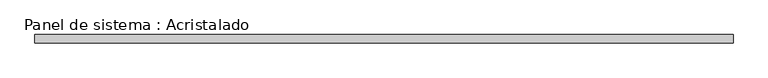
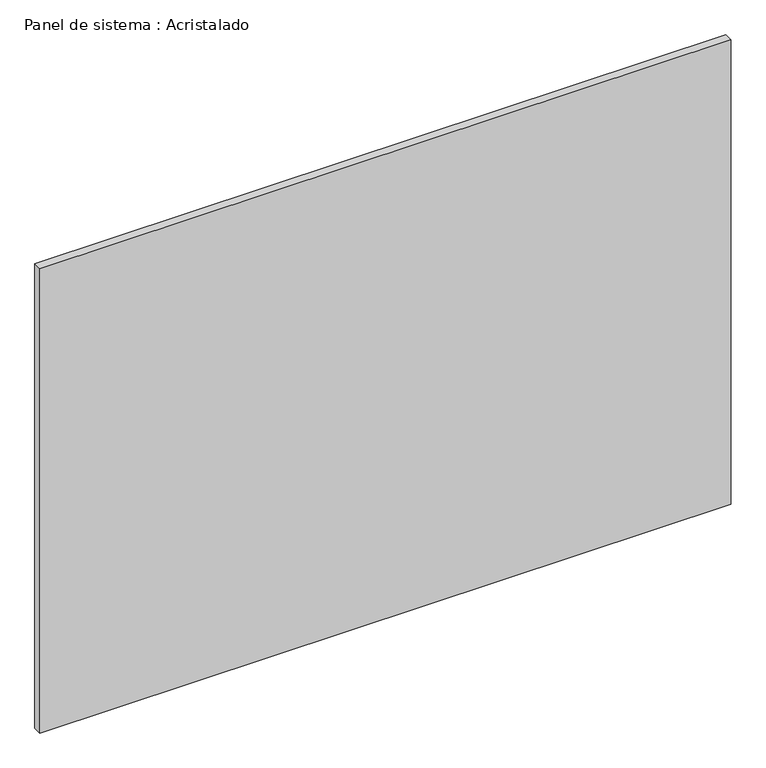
"""IFC4 building model written with IfcOpenShell, lengths in millimetres: plate geometry, Panel de sistema : Acristalado."""

import ifcopenshell
import ifcopenshell.guid

model = None  # the IFC model being written
_history = None  # IfcOwnerHistory: only IFC2X3 demands one
_inside = {}  # id of a spatial element -> (the spatial element, [elements in it])
_under = {}  # id of a project, library or spatial element -> (it, [spatial elements below it])
_declared = {}  # id of a project -> (the project, [libraries it declares])
_typed = {}  # id of a type object -> (the type object, [elements of that type])
_made_of = {}  # id of a material, layer set ... -> (it, [elements and type objects made of it])


def new_model(schema):
    """Start an empty IFC model of exactly this schema.

    Asked for "IFC4X3", IfcOpenShell would pick the latest addendum, in which some entities
    have other attributes; the version numbers below select the first issue.
    IFC2X3 requires an IfcOwnerHistory on every rooted entity: one is made here for all.
    """
    global model, _history
    if schema == "IFC4X3":
        model = ifcopenshell.file(schema_version=(4, 3, 0, 0))
    else:
        model = ifcopenshell.file(schema=schema)
    _inside.clear()
    _under.clear()
    _declared.clear()
    _typed.clear()
    _made_of.clear()
    _history = None
    if model.schema == "IFC2X3":
        org = make("IfcOrganization", Name="unknown")
        user = make(
            "IfcPersonAndOrganization",
            ThePerson=make("IfcPerson", FamilyName="unknown"),
            TheOrganization=org,
        )
        app = make(
            "IfcApplication",
            ApplicationDeveloper=org,
            Version="unknown",
            ApplicationFullName="unknown",
            ApplicationIdentifier="unknown",
        )
        _history = make(
            "IfcOwnerHistory",
            OwningUser=user,
            OwningApplication=app,
            ChangeAction="ADDED",
            CreationDate=0,
        )
    return model


def make(cls, **values):
    """One entity of the class cls with the attributes given. An attribute that is None is left unset."""
    return model.create_entity(
        cls, **{name: value for name, value in values.items() if value is not None}
    )


def rooted(cls, **values):
    """An entity with a GlobalId (a new one), such as an element, a storey or a relation."""
    return make(cls, GlobalId=ifcopenshell.guid.new(), OwnerHistory=_history, **values)


def si_unit(unit_type, name, prefix=None):
    """IfcSIUnit, for example si_unit("LENGTHUNIT", "METRE", prefix="MILLI")."""
    return make("IfcSIUnit", UnitType=unit_type, Prefix=prefix, Name=name)


def assignment(units):
    """IfcUnitAssignment: the units of a project."""
    return None if units is None else make("IfcUnitAssignment", Units=units)


def point(xyz):
    """IfcCartesianPoint."""
    return None if xyz is None else make("IfcCartesianPoint", Coordinates=xyz)


def direction(xyz):
    """IfcDirection."""
    return None if xyz is None else make("IfcDirection", DirectionRatios=xyz)


def frame(location, z_axis=None, x_axis=None):
    """IfcAxis2Placement3D, a coordinate frame: its origin and axes. An axis left out is left unset."""
    return make(
        "IfcAxis2Placement3D",
        Location=point(location),
        Axis=direction(z_axis),
        RefDirection=direction(x_axis),
    )


def origin():
    """The frame at (0, 0, 0) with its axes left unset."""
    return frame((0.0, 0.0, 0.0))


def origin_with_axes():
    """The frame at (0, 0, 0) with the z axis (0, 0, 1) and the x axis (1, 0, 0) written out."""
    return frame((0.0, 0.0, 0.0), z_axis=(0.0, 0.0, 1.0), x_axis=(1.0, 0.0, 0.0))


def place(relative_to, where):
    """IfcLocalPlacement: puts the frame where relative to a parent placement (None: the world)."""
    return make(
        "IfcLocalPlacement", PlacementRelTo=relative_to, RelativePlacement=where
    )


def context(
    kind, dimensions, precision=None, world=None, true_north=None, identifier=None
):
    """IfcGeometricRepresentationContext, for example the 3D "Model" context."""
    return make(
        "IfcGeometricRepresentationContext",
        ContextIdentifier=identifier,
        ContextType=kind,
        CoordinateSpaceDimension=dimensions,
        Precision=precision,
        WorldCoordinateSystem=world,
        TrueNorth=true_north,
    )


def project(units=None, contexts=None):
    """IfcProject with its units and contexts."""
    return rooted(
        "IfcProject",
        Name="project",
        RepresentationContexts=contexts,
        UnitsInContext=assignment(units),
    )


def spatial(cls, under=None, at=None, **own):
    """A site, building, storey or space (cls), placed at a placement, below another one or the project."""
    s = rooted(cls, ObjectPlacement=at, **own)
    if under is not None:
        _under.setdefault(under.id(), (under, []))[1].append(s)
    return s


def polyline(points):
    """IfcPolyline through the points."""
    return make("IfcPolyline", Points=[point(p) for p in points])


def outline(outer, holes=None, kind="AREA"):
    """IfcArbitraryClosedProfileDef: a profile drawn as a closed curve; with holes, ...WithVoids."""
    if holes is None:
        return make("IfcArbitraryClosedProfileDef", ProfileType=kind, OuterCurve=outer)
    return make(
        "IfcArbitraryProfileDefWithVoids",
        ProfileType=kind,
        OuterCurve=outer,
        InnerCurves=holes,
    )


def extrude(swept, where, along, depth):
    """IfcExtrudedAreaSolid: the profile swept, set in the frame where, extruded along a direction by depth."""
    return make(
        "IfcExtrudedAreaSolid",
        SweptArea=swept,
        Position=where,
        ExtrudedDirection=direction(along),
        Depth=depth,
    )


def shape(context_of_items, identifier, shape_type, items):
    """IfcShapeRepresentation: the items that make up one representation, for example the "Body"."""
    return make(
        "IfcShapeRepresentation",
        ContextOfItems=context_of_items,
        RepresentationIdentifier=identifier,
        RepresentationType=shape_type,
        Items=items,
    )


def source(mapping_origin, context_of_items, identifier, shape_type, items):
    """IfcRepresentationMap: a shape defined once, which mapped items show again and again."""
    return make(
        "IfcRepresentationMap",
        MappingOrigin=mapping_origin,
        MappedRepresentation=shape(context_of_items, identifier, shape_type, items),
    )


def transform(
    local_origin,
    x_axis=None,
    y_axis=None,
    z_axis=None,
    scale=None,
    scale2=None,
    scale3=None,
    uniform=True,
):
    """IfcCartesianTransformationOperator3D, or its non-uniform kind. x_axis, y_axis, z_axis: its Axis1, 2, 3."""
    if uniform:
        return make(
            "IfcCartesianTransformationOperator3D",
            Axis1=direction(x_axis),
            Axis2=direction(y_axis),
            LocalOrigin=point(local_origin),
            Scale=scale,
            Axis3=direction(z_axis),
        )
    return make(
        "IfcCartesianTransformationOperator3DnonUniform",
        Axis1=direction(x_axis),
        Axis2=direction(y_axis),
        LocalOrigin=point(local_origin),
        Scale=scale,
        Axis3=direction(z_axis),
        Scale2=scale2,
        Scale3=scale3,
    )


def mapped(mapping_source, mapping_target):
    """IfcMappedItem: shows the shape of a source again, moved by a transform."""
    return make(
        "IfcMappedItem", MappingSource=mapping_source, MappingTarget=mapping_target
    )


def made_of(thing, what):
    """Note that an element or type object is made of a material, layer set ...; save() writes the relation."""
    if what is not None:
        _made_of.setdefault(what.id(), (what, []))[1].append(thing)
    return thing


def element(
    cls,
    number,
    at=None,
    inside=None,
    cuts=None,
    type_object=None,
    material=None,
    context=None,
    identifier="Body",
    shape_type=None,
    held_by="IfcProductDefinitionShape",
    body=None,
    shapes=None,
    **own,
):
    """One element of the class cls, such as IfcWall. Its Tag is "e" and its number.

    at: its placement. inside: the storey or other place that contains it. cuts: it is an
    opening in that element (IfcRelVoidsElement). A single representation is given by context,
    identifier, shape_type and body (its items); several are given by shapes. held_by: the class
    of the entity that holds the representations. save() writes the other relations.
    """
    e = rooted(cls, Tag="e%d" % number, ObjectPlacement=at, **own)
    if body is not None:
        shapes = [shape(context, identifier, shape_type, body)]
    if shapes is not None:
        e.Representation = make(held_by, Representations=shapes)
    if inside is not None:
        _inside.setdefault(inside.id(), (inside, []))[1].append(e)
    if cuts is not None:
        rooted(
            "IfcRelVoidsElement", RelatingBuildingElement=cuts, RelatedOpeningElement=e
        )
    if type_object is not None:
        _typed.setdefault(type_object.id(), (type_object, []))[1].append(e)
    return made_of(e, material)


def aggregate(whole, parts):
    """IfcRelAggregates: a whole, such as a stair, and the parts it consists of."""
    return rooted("IfcRelAggregates", RelatingObject=whole, RelatedObjects=parts)


def save(model, path):
    """Write the relations noted so far, then the file.

    IfcRelAggregates (storeys below a building ...), IfcRelContainedInSpatialStructure (elements
    in a storey), IfcRelDefinesByType, IfcRelAssociatesMaterial and IfcRelDeclares: one each for
    every whole, place, type object, material and project.
    """
    for whole, parts in _under.values():
        aggregate(whole, parts)
    for where, things in _inside.values():
        rooted(
            "IfcRelContainedInSpatialStructure",
            RelatedElements=things,
            RelatingStructure=where,
        )
    for kind, things in _typed.values():
        rooted("IfcRelDefinesByType", RelatedObjects=things, RelatingType=kind)
    for what, things in _made_of.values():
        rooted("IfcRelAssociatesMaterial", RelatedObjects=things, RelatingMaterial=what)
    for by, libraries in _declared.values():
        rooted("IfcRelDeclares", RelatingContext=by, RelatedDefinitions=libraries)
    model.write(path)


def panel_de_sistema_acristalado_d9b805cc(model_context):
    return source(origin(), model_context, "Body", "SweptSolid", [
        extrude(outline(polyline([(827.5, -10.0), (-827.5, -10.0), (-827.5, 10.0), (827.5, 10.0), (827.5, -10.0)])), origin_with_axes(), (0.0, 0.0, 1.0), 1175.0),
    ])


if __name__ == "__main__":
    model = new_model("IFC4")
    model_context = context("Model", 3, world=origin())
    ifc_project = project(units=[si_unit("LENGTHUNIT", "METRE", prefix="MILLI")], contexts=[model_context])
    site = spatial("IfcSite", under=ifc_project)
    building = spatial("IfcBuilding", under=site)
    placement = place(None, origin())
    panel_de_sistema_acristalado_shape = panel_de_sistema_acristalado_d9b805cc(model_context)
    element("IfcPlate", 1, ObjectType="Panel de sistema : Acristalado", at=placement, inside=building, context=model_context, shape_type="MappedRepresentation", body=[
        mapped(panel_de_sistema_acristalado_shape, transform((0.0, 0.0, 0.0), x_axis=(1.0, 0.0, 0.0), y_axis=(0.0, 1.0, 0.0), z_axis=(0.0, 0.0, 1.0))),
    ])
    save(model, "model.ifc")
